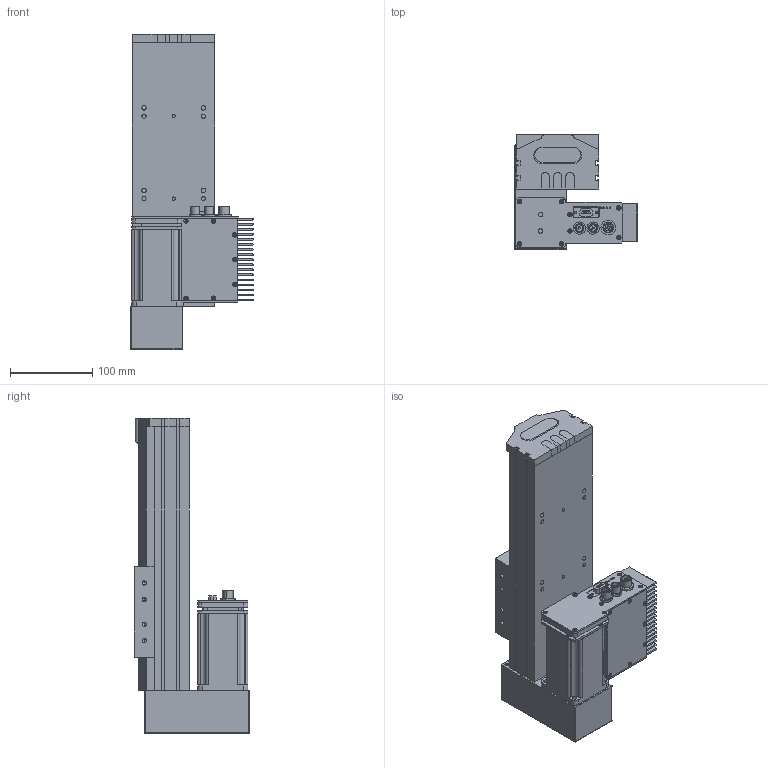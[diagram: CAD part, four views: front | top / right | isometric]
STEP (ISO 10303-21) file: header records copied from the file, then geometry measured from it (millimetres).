
FILE_DESCRIPTION (( 'STEP AP203' ), '1' );
FILE_NAME ('S 10 TSH BM S100.STEP', '2012-09-06T13:08:37', ( 'Conseil Régional Haute-Normandie' ), ( 'Conseil Régional Haute-Normandie' ), 'SwSTEP 2.0', 'SolidWorks 2010', '' );
FILE_SCHEMA (( 'CONFIG_CONTROL_DESIGN' ));
Length unit declared in the file: millimetre
Products named in the file (25): piece_plastique remplieTSH_Default; Connecteur rond D10 3cts_5; Connecteur rond D12 4cts_5; Vis TF 3 torkx_1_1; T_X2_00F4_X0_le lat_X2_00E9_X0_rale_5; Copie de renvoie LH2_Default; S 10 TSH  BM S100; axe320_Default; embout_modifié; remplir_Default; Pièce2_Default; palette tbn2; Assem1_7; T_X2_00F4_X0_le contre le moteur_5; BU41 Carte Alimentation P05_3; Colonnette_3; BU45 Carte d''axe A11_5; Moteur 60BLDC90A_3; Couvercle_3; T_X2_00F4_X0_le fond_3; Sub D 9cts 90_X2_00B_X0__3; Radiateur profil_X2_00E9_X0_ 100x25_3; Colonnette ronde_3; T_X2_00F4_X0_le Arri_X2_00E8_X0_re_5; Vis TF 3 torkx
Assembly tree (55 placements, depth 3):
  S 10 TSH  BM S100
    Vis TF 3 torkx  x7
    axe320_Default
    palette tbn2
    Assem1_7
      T_X2_00F4_X0_le Arri_X2_00E8_X0_re_5
      Vis TF 3 torkx_1_1  x21
      Sub D 9cts 90_X2_00B_X0__3
      Connecteur rond D10 3cts_5  x2
      Colonnette ronde_3
      Moteur 60BLDC90A_3
      T_X2_00F4_X0_le lat_X2_00E9_X0_rale_5  x2
      BU45 Carte d''axe A11_5
      BU41 Carte Alimentation P05_3
      Couvercle_3
      T_X2_00F4_X0_le fond_3
      Connecteur rond D12 4cts_5
      T_X2_00F4_X0_le contre le moteur_5
      Colonnette_3  x2
      Radiateur profil_X2_00E9_X0_ 100x25_3
    piece_plastique remplieTSH_Default
      remplir_Default  x3
      Pièce2_Default
      embout_modifié
    Copie de renvoie LH2_Default
Bounding box: 149.38 x 139.75 x 382 mm (x, y, z)
Volume: 2416241.2 mm3; surface area: 481326 mm2
Topology: 53 solids, 53 shells, 1954 faces, 4978 edges, 3238 vertices
Faces by surface type: plane 920, cylinder 863, cone 164, sphere 4, torus 3
Entity records: 38201 total; most frequent: CARTESIAN_POINT 6402, DIRECTION 6213, ORIENTED_EDGE 5648, EDGE_CURVE 2824, AXIS2_PLACEMENT_3D 2274, VERTEX_POINT 1850, VECTOR 1665, LINE 1665
